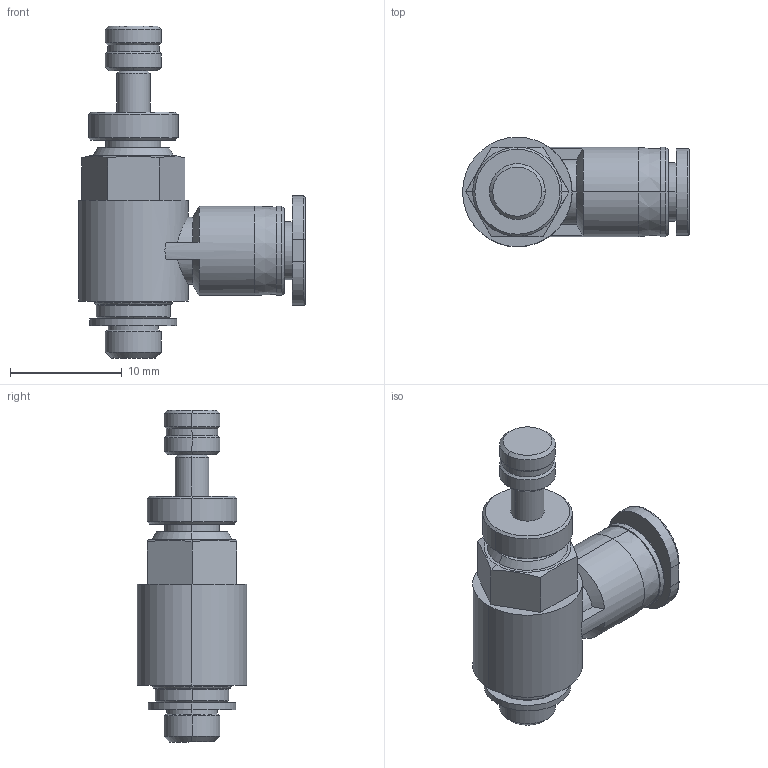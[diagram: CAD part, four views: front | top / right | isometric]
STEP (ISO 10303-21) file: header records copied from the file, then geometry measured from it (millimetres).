
FILE_DESCRIPTION (( 'STEP AP214' ), '1' );
FILE_NAME ('AJSC4-M5.STEP', '2019-12-06T02:45:49', ( '微软用户' ), ( '微软中国' ), 'SwSTEP 2.0', 'SolidWorks 2016', '' );
FILE_SCHEMA (( 'AUTOMOTIVE_DESIGN' ));
Length unit declared in the file: millimetre
Products named in the file (1): AJSC4-M5
Bounding box: 20.3 x 9.8 x 29.71 mm (x, y, z)
Volume: 1680.9 mm3; surface area: 1455.4 mm2
Topology: 1 solids, 1 shells, 117 faces, 261 edges, 160 vertices
Faces by surface type: cone 44, cylinder 40, plane 29, bspline 4
Entity records: 3405 total; most frequent: CARTESIAN_POINT 734, DIRECTION 594, ORIENTED_EDGE 522, EDGE_CURVE 261, AXIS2_PLACEMENT_3D 249, VERTEX_POINT 160, CIRCLE 135, EDGE_LOOP 131
